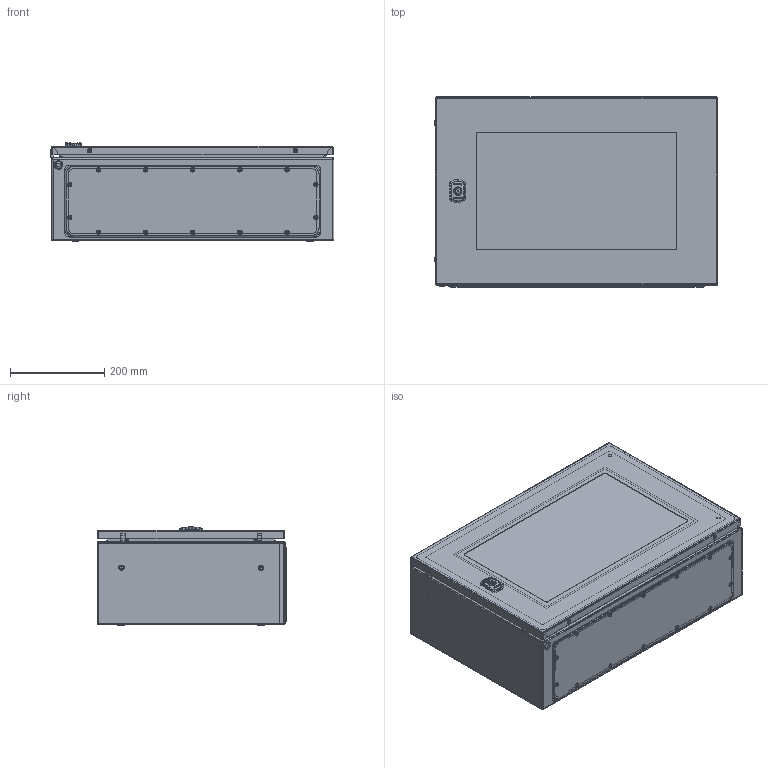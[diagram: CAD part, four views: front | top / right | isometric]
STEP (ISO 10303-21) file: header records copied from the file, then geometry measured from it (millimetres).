
FILE_DESCRIPTION (( 'STEP AP203' ), '1' );
FILE_NAME ('R5STX0462.STEP', '2022-04-28T06:56:14', ( '' ), ( '' ), 'SwSTEP 2.0', 'SolidWorks 2020', '' );
FILE_SCHEMA (( 'CONFIG_CONTROL_DESIGN' ));
Length unit declared in the file: millimetre
Products named in the file (41): M8 DIN 6923 cl.8,0 Zinc_straight; TPA.08.0060.00.00.0 捘; PF 4x8 flange ST_04; TPA.08.0002.00.00.0; RB.2238.00.00.0; RB.2171.00.01.0; AC00C343-R; TPA.08.0003.00.00.0; RB.0048.01.02.0_-05; 娗p ST; M4x10 DIN 7500 M PZ cl.4,8 Zinc_straight; PF 7,5x15 door ST_0400x0600; RB.0048.11.00.0 C縫-04; RB.2171.00.00.0 捘; Glass ST_0400x0600; TPA.08.0001.00.00.0; PT Ì8õ25 cl.4.8 Cu ISO13918_straight; RB.0048.01.00.1 C縫-09; RB.0048.09.00.0 捘; RB.0048.02.00.1 C縫-09; AC00C348-R; AC00C316-R; RB.0048.00.02.1; AC00C317-R; RB.0048.10.00.0 捘; M4x6 DIN 7985 PH cl.4,8 Zinc_straight; Pin 1.2x12 GOST 3128-70; M6x16 DIN 7985 PZ cl.4,8 Zinc_straight; R5STX0462; PT Ì6õ16 Cu ISO13918_straight; Glue ST_0400x0600; AC00C112-R; RB.2237.00.00.0; A7100032-R; RB.0048.09.01.0_default; RB.0048.01.01.1_-09; AC00C380-R; Ì6õ12 A5100231_straight; RB.2070.00.00.0; RB.0048.11.01.0_-04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
Assembly tree (67 placements, depth 4):
  R5STX0462
    RB.0048.02.00.1 C縫-09
      RB.0048.01.00.1 C縫-09
        RB.0048.01.01.1_-09
        RB.0048.01.02.0_-05
        PT Ì8õ25 cl.4.8 Cu ISO13918_straight  x4
        PT Ì6õ16 Cu ISO13918_straight  x4
      AC00C317-R  x4
      AC00C316-R
      RB.2171.00.00.0 捘  x2
        RB.2171.00.01.0
        Pin 1.2x12 GOST 3128-70
      娗p ST  x2
      M4x6 DIN 7985 PH cl.4,8 Zinc_straight  x2
    RB.0048.11.00.0 C縫-04
      RB.0048.11.01.0_-04
      PF 4x8 flange ST_04
    RB.0048.00.02.1
    RB.2070.00.00.0  x4
    M8 DIN 6923 cl.8,0 Zinc_straight  x4
    AC00C380-R  x2
    RB.0048.10.00.0 捘
      RB.0048.09.00.0 捘
        RB.0048.09.01.0_default
        RB.2237.00.00.0  x2
        Ì6õ12 A5100231_straight  x2
      AC00C112-R  x4
      PF 7,5x15 door ST_0400x0600
      TPA.08.0060.00.00.0 捘
        A7100032-R
        AC00C343-R
        AC00C348-R
        TPA.08.0001.00.00.0
        TPA.08.0002.00.00.0
        TPA.08.0003.00.00.0
        M6x16 DIN 7985 PZ cl.4,8 Zinc_straight
      Glass ST_0400x0600
      Glue ST_0400x0600
      AC00C356-R_AC00c356(A7100031)
    M4x10 DIN 7500 M PZ cl.4,8 Zinc_straight  x2
    RB.2238.00.00.0  x2
Bounding box: 602.8 x 403.5 x 208.48 mm (x, y, z)
Volume: 2403049.6 mm3; surface area: 2602510.7 mm2
Topology: 62 solids, 62 shells, 3422 faces, 8310 edges, 5137 vertices
Faces by surface type: plane 1534, cylinder 946, torus 341, bspline 293, cone 250, sphere 58
Entity records: 102541 total; most frequent: CARTESIAN_POINT 31472, ORIENTED_EDGE 13860, DIRECTION 13517, EDGE_CURVE 6930, AXIS2_PLACEMENT_3D 4789, VERTEX_POINT 4342, LINE 3939, VECTOR 3939
